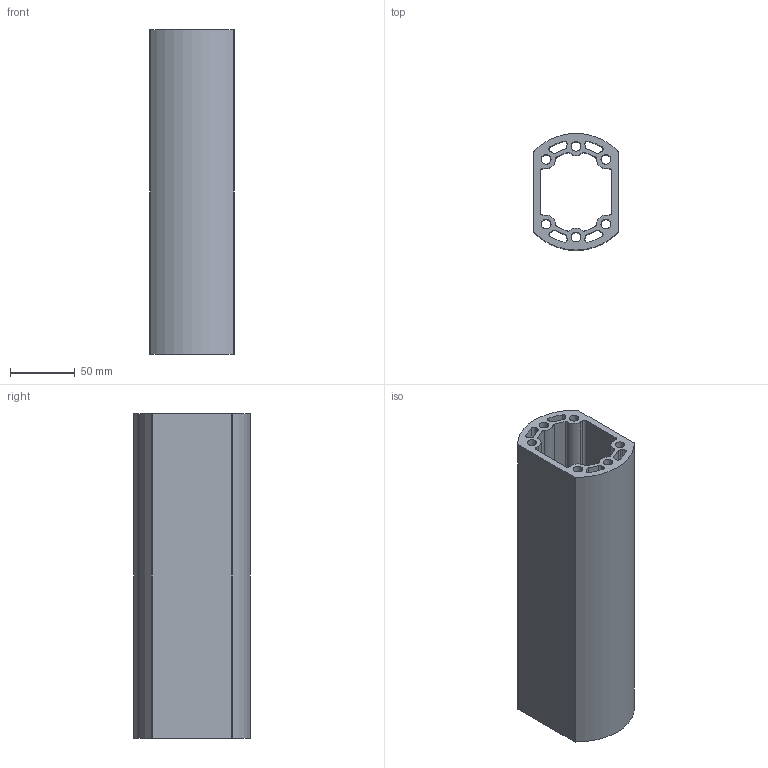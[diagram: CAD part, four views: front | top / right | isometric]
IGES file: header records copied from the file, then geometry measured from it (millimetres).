
Start section:  PTC IGES file: sce-sa10tc.igs
Global section: file name: sce-sa10tc.igs; native system: Creo Parametric by PTC Inc.; preprocessor: 2017260; author: dougp; organization: Unknown; date: 20181204.123955; units: inch
Bounding box: 65 x 90 x 249.94 mm (x, y, z)
Surface area: 193880.6 mm2 (no closed solid volume)
Topology: 0 solids, 0 shells, 82 faces, 480 edges, 480 vertices
Faces by surface type: bspline 82
